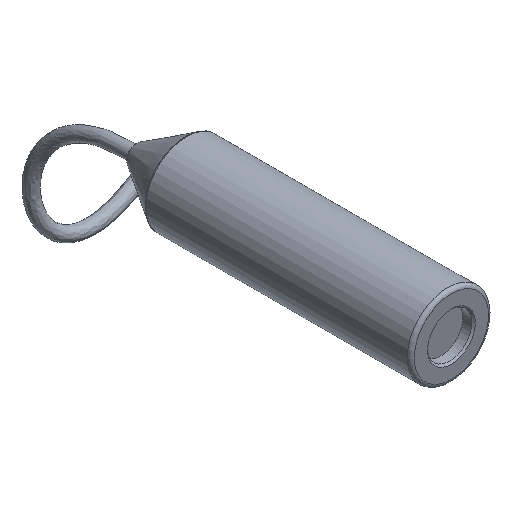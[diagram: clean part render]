
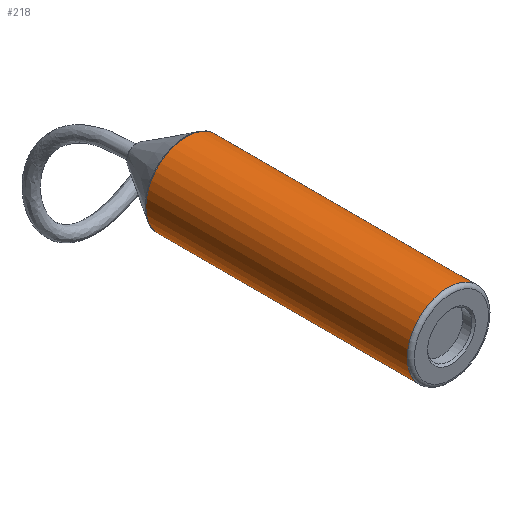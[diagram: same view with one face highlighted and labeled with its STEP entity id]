
A CAD part, isometric view. The second image highlights one B-rep face of the part: STEP entity #218.
In plain terms, the highlighted cylindrical face has radius 23 mm (diameter 46 mm), a full revolution.
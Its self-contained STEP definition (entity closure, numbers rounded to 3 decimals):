
#18=CYLINDRICAL_SURFACE('',#270,23.);
#24=LINE('',#629,#28);
#28=VECTOR('',#346,23.);
#44=FACE_OUTER_BOUND('',#58,.T.);
#58=EDGE_LOOP('',(#187,#188,#189,#190,#191,#192,#193,#194));
#78=CIRCLE('',#266,23.);
#79=CIRCLE('',#267,23.);
#81=CIRCLE('',#269,23.);
#82=CIRCLE('',#271,23.);
#83=CIRCLE('',#272,23.);
#84=CIRCLE('',#273,23.);
#105=VERTEX_POINT('',#616);
#106=VERTEX_POINT('',#617);
#107=VERTEX_POINT('',#619);
#108=VERTEX_POINT('',#624);
#109=VERTEX_POINT('',#625);
#110=VERTEX_POINT('',#627);
#133=EDGE_CURVE('',#105,#106,#78,.T.);
#134=EDGE_CURVE('',#106,#107,#79,.T.);
#136=EDGE_CURVE('',#107,#105,#81,.T.);
#137=EDGE_CURVE('',#108,#109,#82,.T.);
#138=EDGE_CURVE('',#110,#108,#83,.T.);
#139=EDGE_CURVE('',#110,#106,#24,.T.);
#140=EDGE_CURVE('',#109,#110,#84,.T.);
#187=ORIENTED_EDGE('',*,*,#137,.F.);
#188=ORIENTED_EDGE('',*,*,#138,.F.);
#189=ORIENTED_EDGE('',*,*,#139,.T.);
#190=ORIENTED_EDGE('',*,*,#133,.F.);
#191=ORIENTED_EDGE('',*,*,#136,.F.);
#192=ORIENTED_EDGE('',*,*,#134,.F.);
#193=ORIENTED_EDGE('',*,*,#139,.F.);
#194=ORIENTED_EDGE('',*,*,#140,.F.);
#218=ADVANCED_FACE('',(#44),#18,.T.);
#266=AXIS2_PLACEMENT_3D('',#618,#332,#333);
#267=AXIS2_PLACEMENT_3D('',#620,#334,#335);
#269=AXIS2_PLACEMENT_3D('',#622,#338,#339);
#270=AXIS2_PLACEMENT_3D('',#623,#340,#341);
#271=AXIS2_PLACEMENT_3D('',#626,#342,#343);
#272=AXIS2_PLACEMENT_3D('',#628,#344,#345);
#273=AXIS2_PLACEMENT_3D('',#630,#347,#348);
#332=DIRECTION('center_axis',(0.,1.,0.));
#333=DIRECTION('ref_axis',(-1.,0.,0.));
#334=DIRECTION('center_axis',(0.,1.,0.));
#335=DIRECTION('ref_axis',(-1.,0.,0.));
#338=DIRECTION('center_axis',(0.,1.,0.));
#339=DIRECTION('ref_axis',(-1.,0.,0.));
#340=DIRECTION('center_axis',(0.,-1.,0.));
#341=DIRECTION('ref_axis',(1.,0.,0.));
#342=DIRECTION('center_axis',(0.,-1.,0.));
#343=DIRECTION('ref_axis',(-1.,0.,0.));
#344=DIRECTION('center_axis',(0.,-1.,0.));
#345=DIRECTION('ref_axis',(-1.,0.,0.));
#346=DIRECTION('',(0.,1.,0.));
#347=DIRECTION('center_axis',(0.,-1.,0.));
#348=DIRECTION('ref_axis',(-1.,0.,0.));
#616=CARTESIAN_POINT('',(23.,149.715,0.));
#617=CARTESIAN_POINT('',(-23.,149.715,0.));
#618=CARTESIAN_POINT('Origin',(0.,149.715,0.));
#619=CARTESIAN_POINT('',(0.,149.715,23.));
#620=CARTESIAN_POINT('Origin',(0.,149.715,0.));
#622=CARTESIAN_POINT('Origin',(0.,149.715,0.));
#623=CARTESIAN_POINT('Origin',(0.,75.,0.));
#624=CARTESIAN_POINT('',(23.,2.,0.));
#625=CARTESIAN_POINT('',(0.,2.,23.));
#626=CARTESIAN_POINT('Origin',(0.,2.,0.));
#627=CARTESIAN_POINT('',(-23.,2.,0.));
#628=CARTESIAN_POINT('Origin',(0.,2.,0.));
#629=CARTESIAN_POINT('',(-23.,75.,0.));
#630=CARTESIAN_POINT('Origin',(0.,2.,0.));
